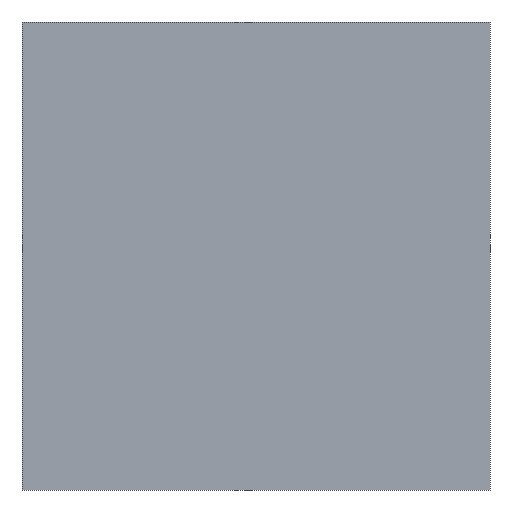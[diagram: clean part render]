
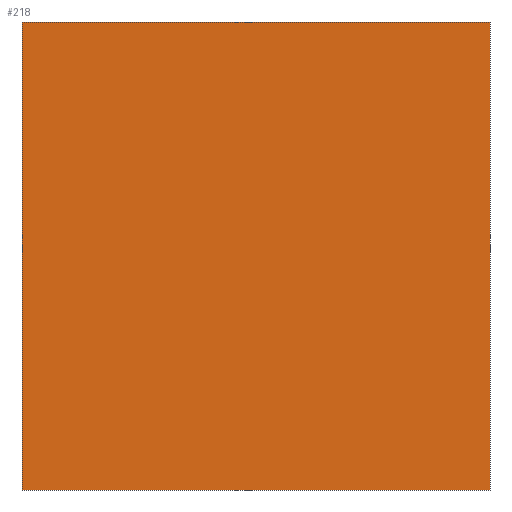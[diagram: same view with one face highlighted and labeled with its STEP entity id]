
A CAD part, front view. The second image highlights one B-rep face of the part: STEP entity #218.
In plain terms, the highlighted planar face has unit normal (0, -1, 0).
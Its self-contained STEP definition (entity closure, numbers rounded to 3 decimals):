
#10 = DIRECTION ( 'NONE',  ( 0., 0., -1. ) ) ;
#12 = EDGE_CURVE ( 'NONE', #107, #592, #830, .T. ) ;
#48 = PLANE ( 'NONE',  #672 ) ;
#51 = EDGE_CURVE ( 'NONE', #592, #752, #61, .T. ) ;
#61 = LINE ( 'NONE', #130, #352 ) ;
#107 = VERTEX_POINT ( 'NONE', #519 ) ;
#112 = DIRECTION ( 'NONE',  ( 0., 0., 1. ) ) ;
#114 = DIRECTION ( 'NONE',  ( -1., 0., 0. ) ) ;
#117 = CARTESIAN_POINT ( 'NONE',  ( 17.5, -60., -17.5 ) ) ;
#130 = CARTESIAN_POINT ( 'NONE',  ( -17.5, -60., 17.5 ) ) ;
#166 = DIRECTION ( 'NONE',  ( 0., 0., -1. ) ) ;
#186 = DIRECTION ( 'NONE',  ( 0., -1., 0. ) ) ;
#218 = ADVANCED_FACE ( 'NONE', ( #248 ), #48, .T. ) ;
#220 = CARTESIAN_POINT ( 'NONE',  ( -17.5, -60., 17.5 ) ) ;
#248 = FACE_OUTER_BOUND ( 'NONE', #263, .T. ) ;
#263 = EDGE_LOOP ( 'NONE', ( #343, #307, #805, #401 ) ) ;
#305 = CARTESIAN_POINT ( 'NONE',  ( -17.5, -60., -17.5 ) ) ;
#307 = ORIENTED_EDGE ( 'NONE', *, *, #51, .F. ) ;
#343 = ORIENTED_EDGE ( 'NONE', *, *, #817, .F. ) ;
#352 = VECTOR ( 'NONE', #455, 1000. ) ;
#393 = EDGE_CURVE ( 'NONE', #403, #107, #566, .T. ) ;
#401 = ORIENTED_EDGE ( 'NONE', *, *, #393, .F. ) ;
#403 = VERTEX_POINT ( 'NONE', #117 ) ;
#430 = CARTESIAN_POINT ( 'NONE',  ( -17.5, -60., 17.5 ) ) ;
#455 = DIRECTION ( 'NONE',  ( 1., 0., 0. ) ) ;
#506 = VECTOR ( 'NONE', #10, 1000. ) ;
#519 = CARTESIAN_POINT ( 'NONE',  ( -17.5, -60., -17.5 ) ) ;
#533 = VECTOR ( 'NONE', #112, 1000. ) ;
#566 = LINE ( 'NONE', #305, #666 ) ;
#592 = VERTEX_POINT ( 'NONE', #220 ) ;
#606 = CARTESIAN_POINT ( 'NONE',  ( 17.5, -60., 17.5 ) ) ;
#666 = VECTOR ( 'NONE', #114, 1000. ) ;
#672 = AXIS2_PLACEMENT_3D ( 'NONE', #775, #186, #166 ) ;
#740 = LINE ( 'NONE', #606, #506 ) ;
#752 = VERTEX_POINT ( 'NONE', #832 ) ;
#775 = CARTESIAN_POINT ( 'NONE',  ( 0., -60., 0. ) ) ;
#805 = ORIENTED_EDGE ( 'NONE', *, *, #12, .F. ) ;
#817 = EDGE_CURVE ( 'NONE', #752, #403, #740, .T. ) ;
#830 = LINE ( 'NONE', #430, #533 ) ;
#832 = CARTESIAN_POINT ( 'NONE',  ( 17.5, -60., 17.5 ) ) ;
